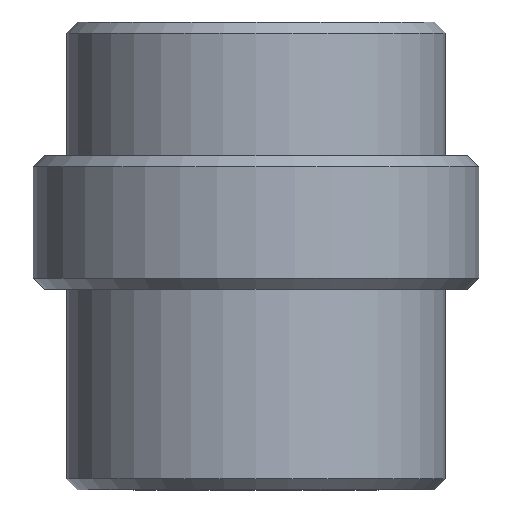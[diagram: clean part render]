
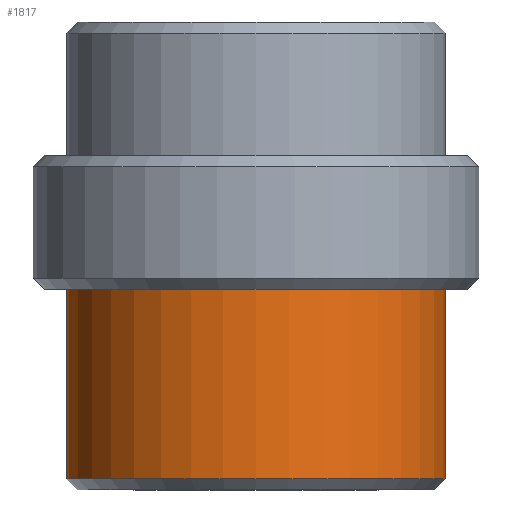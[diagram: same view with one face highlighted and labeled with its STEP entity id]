
A CAD part, front view. The second image highlights one B-rep face of the part: STEP entity #1817.
In plain terms, the highlighted cylindrical face has radius 8.5 mm (diameter 17 mm), a partial arc.
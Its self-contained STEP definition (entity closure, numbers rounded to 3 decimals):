
#865=CARTESIAN_POINT('',(0.,0.,-8.5));
#866=DIRECTION('',(0.,0.,-1.));
#867=DIRECTION('',(1.,0.,0.));
#868=AXIS2_PLACEMENT_3D('',#865,#866,#867);
#870=DIRECTION('',(0.,0.,-1.));
#871=VECTOR('',#870,8.5);
#872=CARTESIAN_POINT('',(-8.5,0.,0.));
#873=LINE('',#872,#871);
#874=CARTESIAN_POINT('',(0.,0.,0.));
#875=DIRECTION('',(0.,0.,-1.));
#876=DIRECTION('',(1.,0.,0.));
#877=AXIS2_PLACEMENT_3D('',#874,#875,#876);
#879=DIRECTION('',(0.,0.,-1.));
#880=VECTOR('',#879,8.5);
#881=CARTESIAN_POINT('',(8.5,0.,0.));
#882=LINE('',#881,#880);
#1111=CARTESIAN_POINT('',(8.5,0.,0.));
#1112=CARTESIAN_POINT('',(-8.5,0.,0.));
#1113=VERTEX_POINT('',#1111);
#1114=VERTEX_POINT('',#1112);
#1119=CARTESIAN_POINT('',(-8.5,0.,-8.5));
#1120=CARTESIAN_POINT('',(8.5,0.,-8.5));
#1121=VERTEX_POINT('',#1119);
#1122=VERTEX_POINT('',#1120);
#1803=CARTESIAN_POINT('',(0.,0.,-10.05));
#1804=DIRECTION('',(0.,0.,1.));
#1805=DIRECTION('',(-1.,0.,0.));
#1806=AXIS2_PLACEMENT_3D('',#1803,#1804,#1805);
#1807=CYLINDRICAL_SURFACE('',#1806,8.5);
#1808=ORIENTED_EDGE('',*,*,#1797,.T.);
#1810=ORIENTED_EDGE('',*,*,#1809,.F.);
#1812=ORIENTED_EDGE('',*,*,#1811,.F.);
#1814=ORIENTED_EDGE('',*,*,#1813,.T.);
#1815=EDGE_LOOP('',(#1808,#1810,#1812,#1814));
#1816=FACE_OUTER_BOUND('',#1815,.F.);
#1817=ADVANCED_FACE('',(#1816),#1807,.T.);
#869=CIRCLE('',#868,8.5);
#878=CIRCLE('',#877,8.5);
#1797=EDGE_CURVE('',#1122,#1121,#869,.T.);
#1809=EDGE_CURVE('',#1114,#1121,#873,.T.);
#1811=EDGE_CURVE('',#1113,#1114,#878,.T.);
#1813=EDGE_CURVE('',#1113,#1122,#882,.T.);
